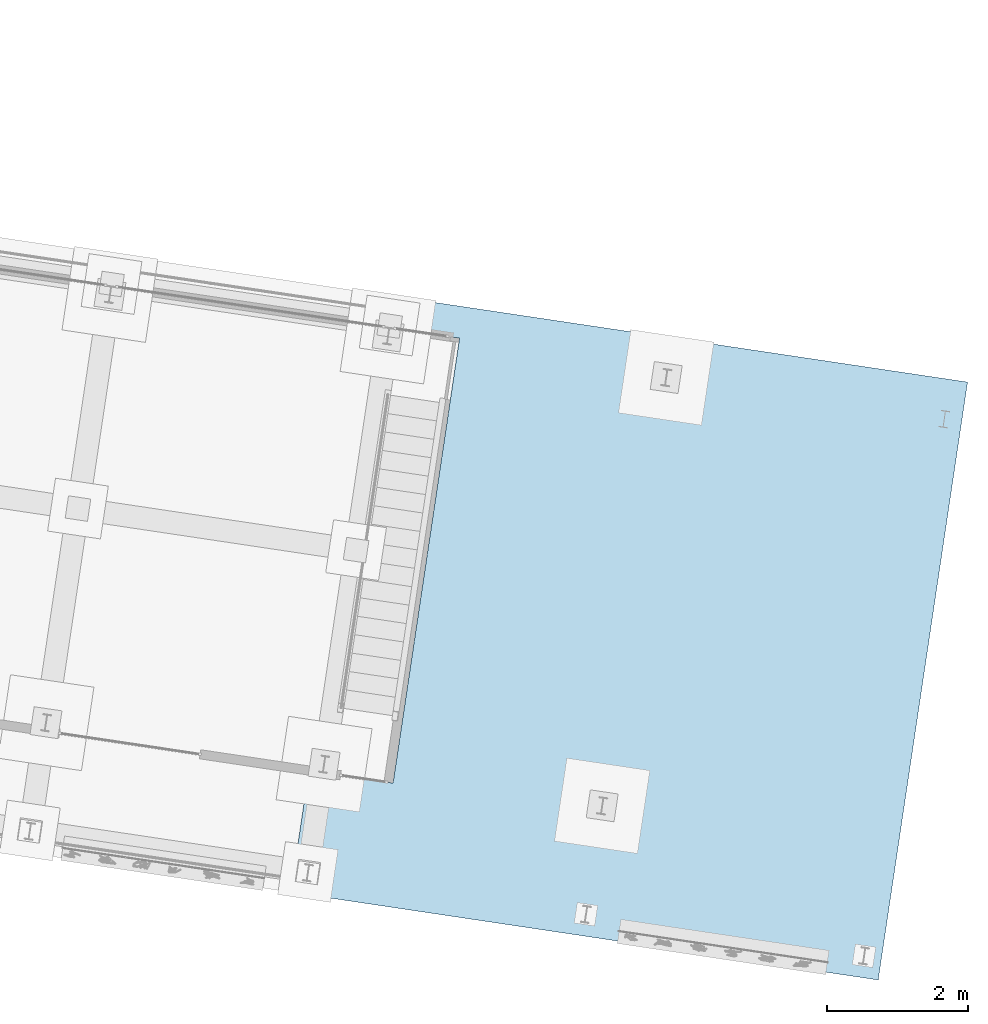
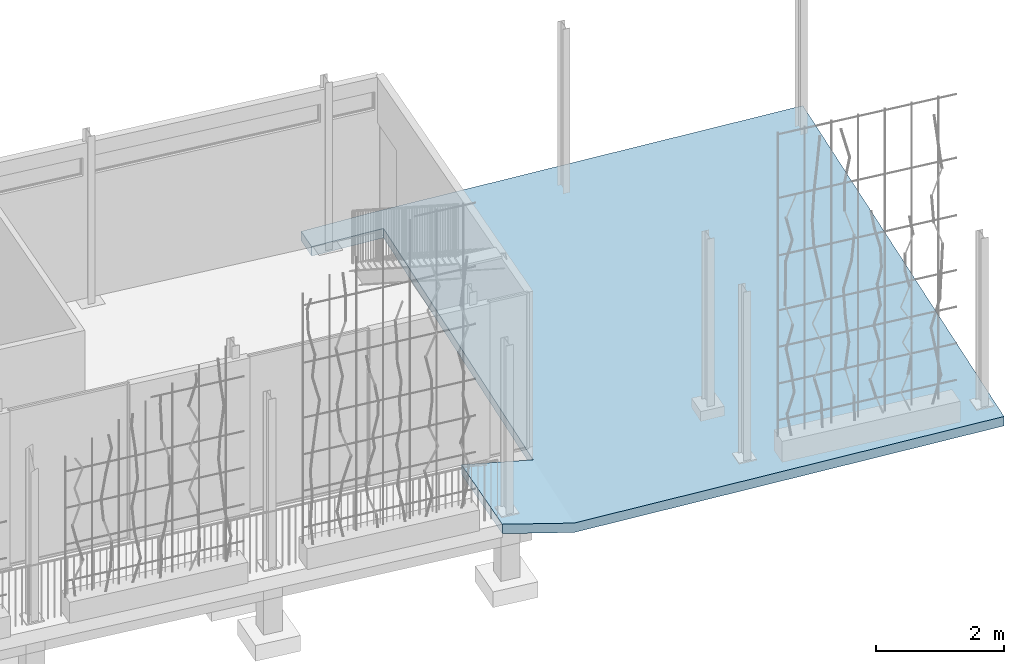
# One storey, part 136 of 142: 1 slab, 1 element without a shape of its own.
"""IFC4 building model written with IfcOpenShell, lengths in metres."""

from ifc_helpers import new_model, si_unit, direction, frame, origin_with_axes, place, context, subcontext, project, spatial, polygons, material, element, aggregate, save


model = new_model("IFC4")

# Units and contexts
model_context = context("Model", 3, precision=1e-05, world=origin_with_axes(), true_north=direction((0.0, 1.0)))
body_context = subcontext(model_context, "Body", "Model", "MODEL_VIEW")
ifc_project = project(units=[si_unit("LENGTHUNIT", "METRE"), si_unit("AREAUNIT", "SQUARE_METRE"), si_unit("VOLUMEUNIT", "CUBIC_METRE")], contexts=[model_context])

# Site, building, storey
site_placement = place(None, origin_with_axes())
site = spatial("IfcSite", under=ifc_project, at=site_placement, Name="Lares · Rua das Mercês · artigo 4771")
building_placement = place(site_placement, frame((15.0, 9.7, 14.65), z_axis=(0.0, 0.0, 1.0), x_axis=(0.989015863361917, -0.147809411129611, 0.0)))
building = spatial("IfcBuilding", under=site, at=building_placement, Name="Casa Sobreposta")
storey_placement = place(building_placement, origin_with_axes())
storey = spatial("IfcBuildingStorey", under=building, at=storey_placement, Name="00 · Habitação e estacionamento", Elevation=14.65)

# Assembly, slab
assembly_placement = place(storey_placement, origin_with_axes())
assembly = element("IfcElementAssembly", 1, at=assembly_placement, inside=storey, Name="Pódio · terraço, casa térrea e cisterna", ObjectType="CISTERN_PODIUM", PredefinedType="USERDEFINED")
ifc_material = material(Name="Betão armado / Stahlbeton", Category="concrete")
slab_placement = place(assembly_placement, origin_with_axes())
slab = element("IfcSlab", 2, at=slab_placement, material=ifc_material, Name="Estacionamento · pavimento apoiado no solo", PredefinedType="BASESLAB", context=body_context, shape_type="Tessellation", body=[
    polygons([(25.01, 6.85, -0.163599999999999), (25.01, -1.75, -0.5076), (32.25, -1.75, -0.326600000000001), (25.01, 6.85, 0.0164000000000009), (25.01, -1.75, -0.3276), (32.25, -1.75, -0.146600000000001), (25.01, 6.85, -0.163599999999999), (32.25, -1.75, -0.326600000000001), (32.25, 6.85, 0.0174), (25.01, 6.85, 0.0164000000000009), (32.25, -1.75, -0.146600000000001), (32.25, 6.85, 0.1974), (23.8, 0.0, -0.219999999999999), (23.8, -1.75, -0.219999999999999), (25.01, -1.75, -0.5076), (23.8, 0.0, -0.0399999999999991), (23.8, -1.75, -0.0399999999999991), (25.01, -1.75, -0.3276), (23.8, 0.0, -0.219999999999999), (25.01, -1.75, -0.5076), (25.01, 0.0, -0.4376), (23.8, 0.0, -0.0399999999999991), (25.01, -1.75, -0.3276), (25.01, 0.0, -0.2576), (23.8, 6.85, -0.219999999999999), (23.8, 6.4, -0.219999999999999), (25.01, 6.4, -0.1816), (23.8, 6.85, -0.0399999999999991), (23.8, 6.4, -0.0399999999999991), (25.01, 6.4, -0.00159999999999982), (23.8, 6.85, -0.219999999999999), (25.01, 6.4, -0.1816), (25.01, 6.85, -0.163599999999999), (23.8, 6.85, -0.0399999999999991), (25.01, 6.4, -0.00159999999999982), (25.01, 6.85, 0.0164000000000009)], [[[3, 2, 1]], [[4, 5, 6]], [[1, 2, 5, 4]], [[2, 3, 6, 5]], [[3, 1, 4, 6]], [[9, 8, 7]], [[10, 11, 12]], [[7, 8, 11, 10]], [[8, 9, 12, 11]], [[9, 7, 10, 12]], [[15, 14, 13]], [[16, 17, 18]], [[13, 14, 17, 16]], [[14, 15, 18, 17]], [[15, 13, 16, 18]], [[21, 20, 19]], [[22, 23, 24]], [[19, 20, 23, 22]], [[20, 21, 24, 23]], [[21, 19, 22, 24]], [[27, 26, 25]], [[28, 29, 30]], [[25, 26, 29, 28]], [[26, 27, 30, 29]], [[27, 25, 28, 30]], [[33, 32, 31]], [[34, 35, 36]], [[31, 32, 35, 34]], [[32, 33, 36, 35]], [[33, 31, 34, 36]]]),
])
aggregate(assembly, [slab])

save(model, "model.ifc")
